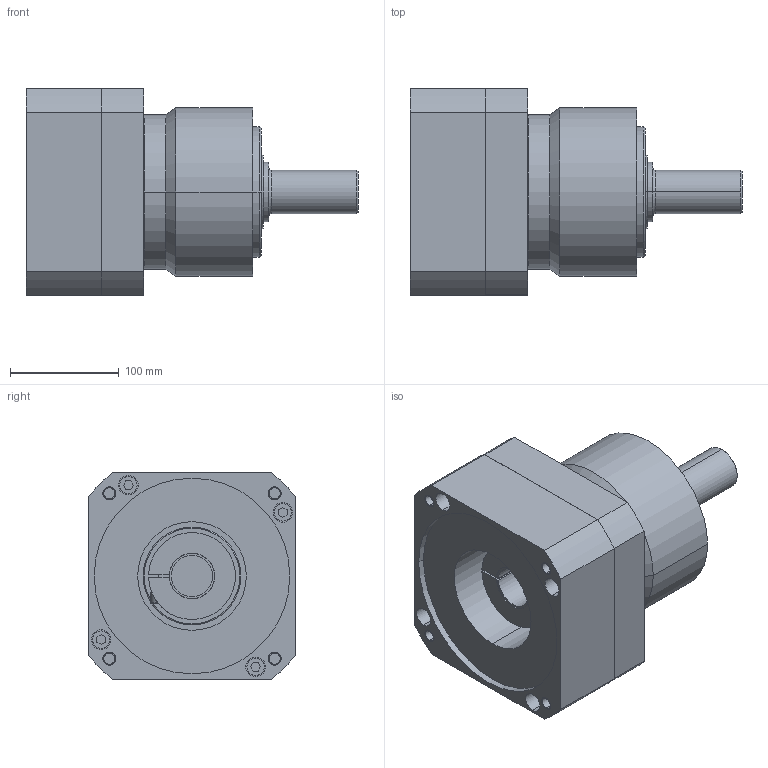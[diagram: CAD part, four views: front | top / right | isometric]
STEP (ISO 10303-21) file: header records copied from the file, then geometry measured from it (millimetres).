
FILE_DESCRIPTION((''),'2;1');
FILE_NAME('MB_PLPE_MASTER','2018-10-23T',('agw'),(''),'CREO PARAMETRIC BY PTC INC, 2015290','CREO PARAMETRIC BY PTC INC, 2015290','');
FILE_SCHEMA(('AUTOMOTIVE_DESIGN { 1 0 10303 214 1 1 1 1 }'));
Length unit declared in the file: millimetre
Products named in the file (1): MB_PLPE_MASTER
Bounding box: 305.5 x 190 x 190 mm (x, y, z)
Volume: 5100201.3 mm3; surface area: 319270.5 mm2
Topology: 1 solids, 14 shells, 257 faces, 579 edges, 382 vertices
Faces by surface type: plane 137, cylinder 106, torus 8, cone 6
Entity records: 7767 total; most frequent: DIRECTION 1339, CARTESIAN_POINT 1241, ORIENTED_EDGE 1126, EDGE_CURVE 579, AXIS2_PLACEMENT_3D 503, VERTEX_POINT 382, VECTOR 333, LINE 333
